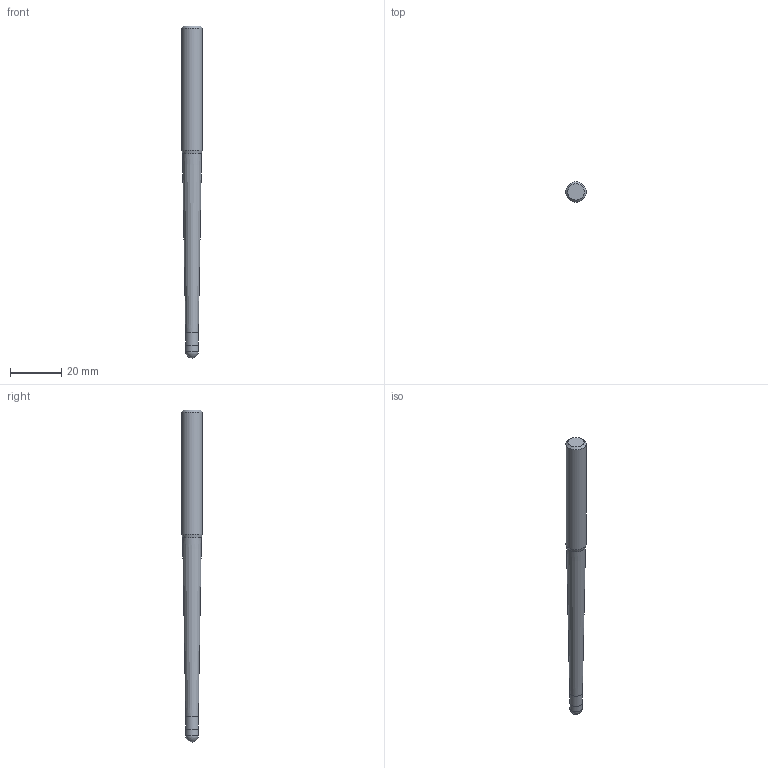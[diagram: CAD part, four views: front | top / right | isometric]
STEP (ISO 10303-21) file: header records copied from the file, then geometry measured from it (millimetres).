
FILE_DESCRIPTION((''),'2;1');
FILE_NAME('C:\Users\nsx150\AppData\Local\Temp\Mastercam 2021\SNAKH10GOD\TEMP.step','2021-10-21T13:33:48',(''),(''),'STEP Write','Mastercam 2021 ... CNC Software, Inc.','');
FILE_SCHEMA(('AUTOMOTIVE_DESIGN'));
Length unit declared in the file: millimetre
Products named in the file (1): None
Bounding box: 8 x 8 x 130 mm (x, y, z)
Volume: 4828.3 mm3; surface area: 2855.6 mm2
Topology: 2 solids, 2 shells, 10 faces, 16 edges, 9 vertices
Faces by surface type: plane 3, cylinder 3, cone 3, sphere 1
Full cylindrical faces by diameter (mm): 4.98 x1, 5 x1, 8 x1
Entity records: 232 total; most frequent: DIRECTION 40, CARTESIAN_POINT 28, AXIS2_PLACEMENT_3D 20, ORIENTED_EDGE 16, EDGE_LOOP 16, STYLED_ITEM 13, ADVANCED_FACE 10, FACE_BOUND 9
